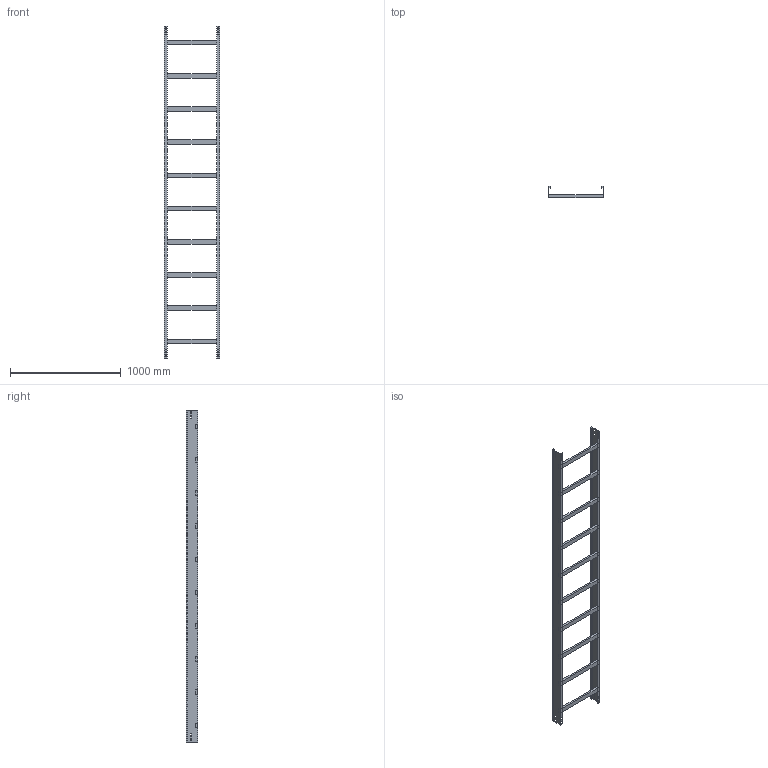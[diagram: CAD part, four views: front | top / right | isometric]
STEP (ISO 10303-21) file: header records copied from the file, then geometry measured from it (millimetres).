
FILE_DESCRIPTION (( 'STEP AP214' ), '1' );
FILE_NAME ('01B3D500.step', '2025-02-21T15:59:47', ( '' ), ( '' ), 'SwSTEP 2.0', 'SolidWorks 2023', '' );
FILE_SCHEMA (( 'AUTOMOTIVE_DESIGN' ));
Length unit declared in the file: millimetre
Products named in the file (3): 01B3D500; LONGH.H100; TRAVERSINO_500
Assembly tree (12 placements, depth 2):
  01B3D500
    LONGH.H100  x2
    TRAVERSINO_500  x10
Bounding box: 500 x 100 x 3000 mm (x, y, z)
Volume: 6664672 mm3; surface area: 2331056 mm2
Topology: 12 solids, 12 shells, 144 faces, 360 edges, 240 vertices
Faces by surface type: plane 144
Entity records: 1696 total; most frequent: CARTESIAN_POINT 283, ORIENTED_EDGE 264, DIRECTION 258, EDGE_CURVE 132, LINE 132, VECTOR 132, VERTEX_POINT 88, EDGE_LOOP 64
